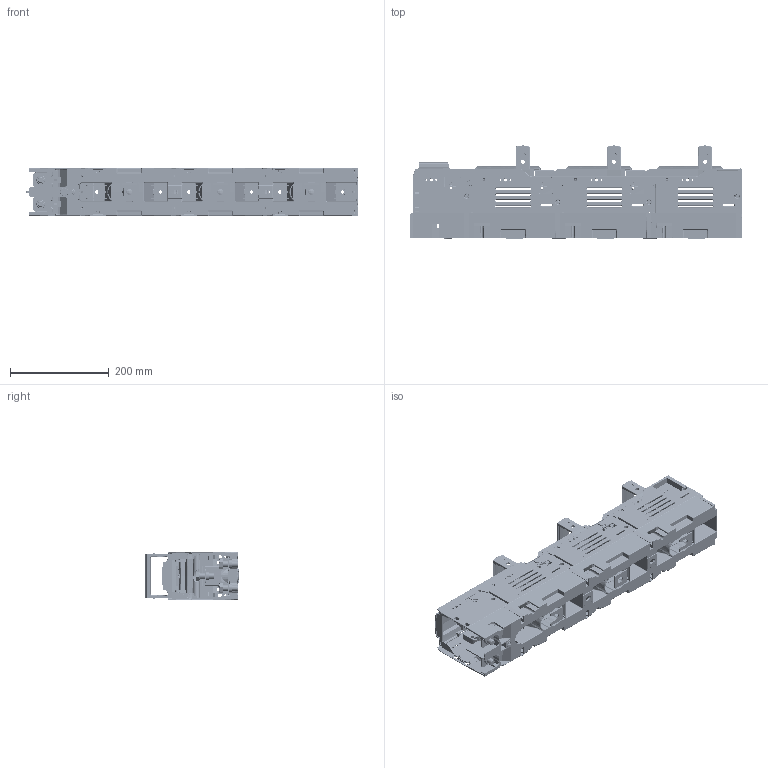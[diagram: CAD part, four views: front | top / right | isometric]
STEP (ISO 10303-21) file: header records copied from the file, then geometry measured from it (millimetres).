
FILE_DESCRIPTION (( 'STEP AP214' ), '1' );
FILE_NAME ('FSD123-31-LM.step', '2014-11-19T10:20:16', ( '' ), ( '' ), 'SwSTEP 2.0', 'SolidWorks 2011', '' );
FILE_SCHEMA (( 'AUTOMOTIVE_DESIGN' ));
Length unit declared in the file: millimetre
Products named in the file (1): FSD123-31-LM
Bounding box: 674 x 189 x 99 mm (x, y, z)
Volume: 1475011 mm3; surface area: 1253469.5 mm2
Topology: 28 solids, 28 shells, 11065 faces, 29333 edges, 18093 vertices
Faces by surface type: plane 4900, cylinder 3158, bspline 1346, cone 915, torus 437, sphere 309
Entity records: 490461 total; most frequent: CARTESIAN_POINT 111077, ORIENTED_EDGE 58090, DIRECTION 49343, EDGE_CURVE 29045, VERTEX_POINT 18093, VECTOR 16939, LINE 16939, AXIS2_PLACEMENT_3D 16202
